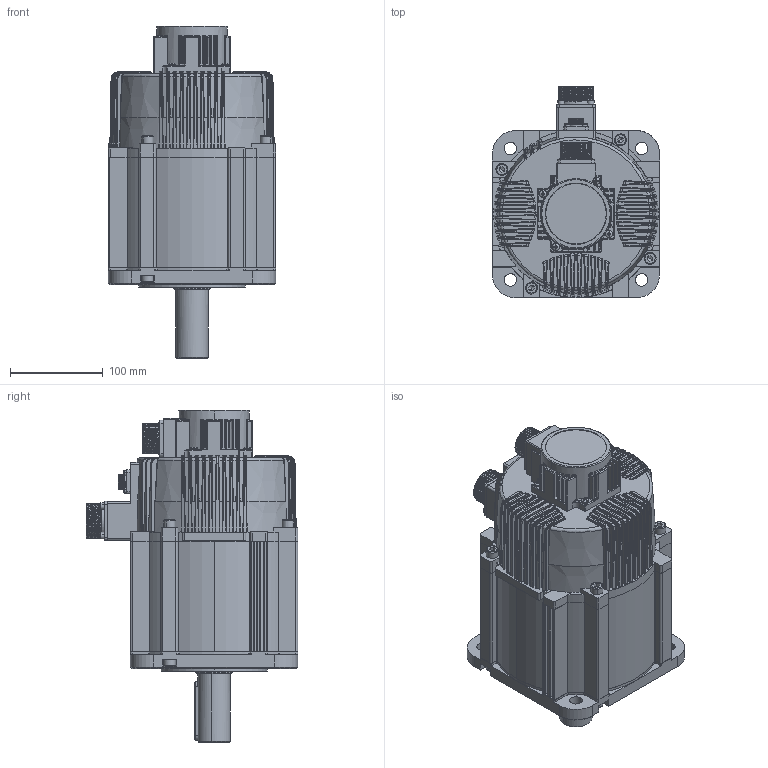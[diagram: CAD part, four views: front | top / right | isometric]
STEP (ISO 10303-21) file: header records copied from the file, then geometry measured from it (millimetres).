
FILE_DESCRIPTION (( 'STEP AP203' ), '1' );
FILE_NAME ('WB180ST-Z1M28415.STEP', '2022-09-06T10:28:23', ( '' ), ( '' ), 'SwSTEP 2.0', 'SolidWorks 2018', '' );
FILE_SCHEMA (( 'CONFIG_CONTROL_DESIGN' ));
Length unit declared in the file: millimetre
Products named in the file (1): WB180ST-Z1M28415
Bounding box: 180 x 227.5 x 357.4 mm (x, y, z)
Volume: 2087674.9 mm3; surface area: 607656.9 mm2
Topology: 35 solids, 35 shells, 3087 faces, 7831 edges, 4796 vertices
Faces by surface type: cylinder 977, plane 923, bspline 611, torus 257, cone 242, sphere 77
Entity records: 134750 total; most frequent: CARTESIAN_POINT 68104, ORIENTED_EDGE 15320, DIRECTION 12020, EDGE_CURVE 7660, AXIS2_PLACEMENT_3D 4929, VERTEX_POINT 4781, EDGE_LOOP 3299, FACE_OUTER_BOUND 3087
